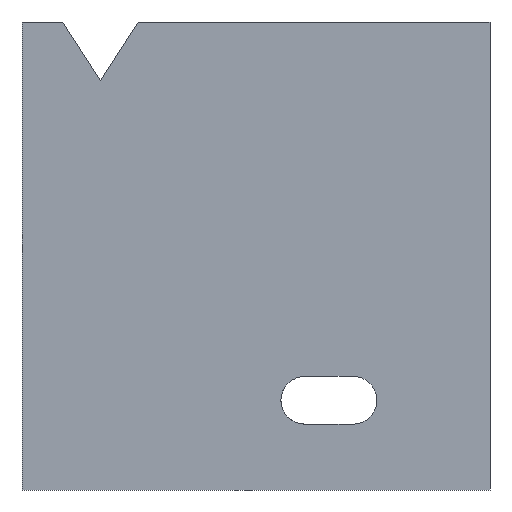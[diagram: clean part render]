
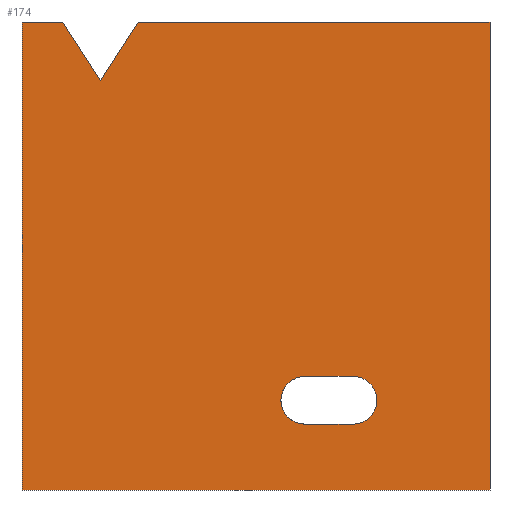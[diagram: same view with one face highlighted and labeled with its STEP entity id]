
A CAD part, left-side view. The second image highlights one B-rep face of the part: STEP entity #174.
In plain terms, the highlighted planar face has unit normal (-1, 0, 0).
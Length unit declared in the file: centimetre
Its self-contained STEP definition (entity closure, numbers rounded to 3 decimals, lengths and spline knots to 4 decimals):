
#11 = AXIS2_PLACEMENT_3D ( 'NONE', #649, #125, #482 ) ;
#17 = ORIENTED_EDGE ( 'NONE', *, *, #867, .T. ) ;
#52 = VECTOR ( 'NONE', #295, 100. ) ;
#58 = FACE_BOUND ( 'NONE', #743, .T. ) ;
#62 = EDGE_CURVE ( 'NONE', #616, #1010, #437, .T. ) ;
#79 = EDGE_CURVE ( 'NONE', #1010, #864, #511, .T. ) ;
#86 = CARTESIAN_POINT ( 'NONE',  ( 0., 1000., 1000. ) ) ;
#93 = DIRECTION ( 'NONE',  ( 0., 0., -1. ) ) ;
#94 = LINE ( 'NONE', #379, #128 ) ;
#107 = CARTESIAN_POINT ( 'NONE',  ( 0., 1000., 1000. ) ) ;
#125 = DIRECTION ( 'NONE',  ( 1., 0., 0. ) ) ;
#128 = VECTOR ( 'NONE', #727, 100. ) ;
#141 = CARTESIAN_POINT ( 'NONE',  ( 0., 752.0861, 1000. ) ) ;
#151 = EDGE_LOOP ( 'NONE', ( #591, #242, #204, #581, #17, #888, #623 ) ) ;
#174 = ADVANCED_FACE ( 'NONE', ( #58, #322 ), #762, .F. ) ;
#203 = VERTEX_POINT ( 'NONE', #698 ) ;
#204 = ORIENTED_EDGE ( 'NONE', *, *, #893, .F. ) ;
#210 = CARTESIAN_POINT ( 'NONE',  ( 0., 395.8773, 140.7912 ) ) ;
#220 = VECTOR ( 'NONE', #1125, 100. ) ;
#242 = ORIENTED_EDGE ( 'NONE', *, *, #1093, .T. ) ;
#260 = DIRECTION ( 'NONE',  ( 1., 0., 0. ) ) ;
#274 = VERTEX_POINT ( 'NONE', #906 ) ;
#287 = DIRECTION ( 'NONE',  ( 0., -1., 0. ) ) ;
#295 = DIRECTION ( 'NONE',  ( 0., -1., 0. ) ) ;
#309 = ORIENTED_EDGE ( 'NONE', *, *, #79, .T. ) ;
#311 = CARTESIAN_POINT ( 'NONE',  ( 0., 752.0861, 1000. ) ) ;
#322 = FACE_OUTER_BOUND ( 'NONE', #151, .T. ) ;
#358 = VERTEX_POINT ( 'NONE', #627 ) ;
#364 = VECTOR ( 'NONE', #828, 100. ) ;
#373 = CARTESIAN_POINT ( 'NONE',  ( 0., 1000., 1000. ) ) ;
#374 = CARTESIAN_POINT ( 'NONE',  ( 0., 292.4852, 140.7912 ) ) ;
#379 = CARTESIAN_POINT ( 'NONE',  ( 0., 832.4518, 873.958 ) ) ;
#398 = LINE ( 'NONE', #141, #871 ) ;
#418 = DIRECTION ( 'NONE',  ( 1., 0., 0. ) ) ;
#419 = AXIS2_PLACEMENT_3D ( 'NONE', #939, #418, #669 ) ;
#431 = CARTESIAN_POINT ( 'NONE',  ( 0., 292.4852, 140.7912 ) ) ;
#433 = EDGE_CURVE ( 'NONE', #358, #274, #1054, .T. ) ;
#437 = CIRCLE ( 'NONE', #419, 50.9211 ) ;
#456 = AXIS2_PLACEMENT_3D ( 'NONE', #86, #260, #1133 ) ;
#458 = VECTOR ( 'NONE', #287, 100. ) ;
#478 = VECTOR ( 'NONE', #969, 100. ) ;
#482 = DIRECTION ( 'NONE',  ( 0., 0., -1. ) ) ;
#505 = CARTESIAN_POINT ( 'NONE',  ( 0., 0., 1000. ) ) ;
#511 = LINE ( 'NONE', #431, #602 ) ;
#523 = VERTEX_POINT ( 'NONE', #672 ) ;
#535 = LINE ( 'NONE', #1141, #220 ) ;
#552 = ORIENTED_EDGE ( 'NONE', *, *, #682, .T. ) ;
#566 = VERTEX_POINT ( 'NONE', #505 ) ;
#581 = ORIENTED_EDGE ( 'NONE', *, *, #433, .T. ) ;
#591 = ORIENTED_EDGE ( 'NONE', *, *, #607, .T. ) ;
#602 = VECTOR ( 'NONE', #1029, 100. ) ;
#605 = CIRCLE ( 'NONE', #11, 50.9211 ) ;
#607 = EDGE_CURVE ( 'NONE', #965, #523, #398, .T. ) ;
#616 = VERTEX_POINT ( 'NONE', #1115 ) ;
#617 = CARTESIAN_POINT ( 'NONE',  ( 0., 0., 1000. ) ) ;
#623 = ORIENTED_EDGE ( 'NONE', *, *, #817, .F. ) ;
#627 = CARTESIAN_POINT ( 'NONE',  ( 0., 1000., 1000. ) ) ;
#642 = ORIENTED_EDGE ( 'NONE', *, *, #62, .T. ) ;
#649 = CARTESIAN_POINT ( 'NONE',  ( 0., 395.8773, 191.7123 ) ) ;
#669 = DIRECTION ( 'NONE',  ( 0., 0., -1. ) ) ;
#672 = CARTESIAN_POINT ( 'NONE',  ( 0., 832.4518, 873.958 ) ) ;
#673 = VERTEX_POINT ( 'NONE', #782 ) ;
#682 = EDGE_CURVE ( 'NONE', #673, #616, #535, .T. ) ;
#698 = CARTESIAN_POINT ( 'NONE',  ( 0., 912.8175, 1000. ) ) ;
#727 = DIRECTION ( 'NONE',  ( 0., 0.538, 0.843 ) ) ;
#733 = ORIENTED_EDGE ( 'NONE', *, *, #883, .T. ) ;
#743 = EDGE_LOOP ( 'NONE', ( #552, #642, #309, #733 ) ) ;
#747 = DIRECTION ( 'NONE',  ( 0., 0.538, -0.843 ) ) ;
#761 = VERTEX_POINT ( 'NONE', #857 ) ;
#762 = PLANE ( 'NONE',  #456 ) ;
#763 = EDGE_CURVE ( 'NONE', #566, #761, #878, .T. ) ;
#782 = CARTESIAN_POINT ( 'NONE',  ( 0., 395.8773, 242.6334 ) ) ;
#799 = LINE ( 'NONE', #807, #458 ) ;
#807 = CARTESIAN_POINT ( 'NONE',  ( 0., 1000., 0. ) ) ;
#817 = EDGE_CURVE ( 'NONE', #965, #566, #1079, .T. ) ;
#828 = DIRECTION ( 'NONE',  ( 0., -1., 0. ) ) ;
#857 = CARTESIAN_POINT ( 'NONE',  ( 0., 0., 0. ) ) ;
#864 = VERTEX_POINT ( 'NONE', #210 ) ;
#867 = EDGE_CURVE ( 'NONE', #274, #761, #799, .T. ) ;
#871 = VECTOR ( 'NONE', #747, 100. ) ;
#878 = LINE ( 'NONE', #617, #949 ) ;
#883 = EDGE_CURVE ( 'NONE', #864, #673, #605, .T. ) ;
#888 = ORIENTED_EDGE ( 'NONE', *, *, #763, .F. ) ;
#890 = LINE ( 'NONE', #373, #364 ) ;
#893 = EDGE_CURVE ( 'NONE', #358, #203, #890, .T. ) ;
#906 = CARTESIAN_POINT ( 'NONE',  ( 0., 1000., 0. ) ) ;
#939 = CARTESIAN_POINT ( 'NONE',  ( 0., 292.4852, 191.7123 ) ) ;
#949 = VECTOR ( 'NONE', #93, 100. ) ;
#965 = VERTEX_POINT ( 'NONE', #311 ) ;
#969 = DIRECTION ( 'NONE',  ( 0., 0., -1. ) ) ;
#1010 = VERTEX_POINT ( 'NONE', #374 ) ;
#1029 = DIRECTION ( 'NONE',  ( 0., 1., 0. ) ) ;
#1045 = CARTESIAN_POINT ( 'NONE',  ( 0., 1000., 1000. ) ) ;
#1054 = LINE ( 'NONE', #1045, #478 ) ;
#1079 = LINE ( 'NONE', #107, #52 ) ;
#1093 = EDGE_CURVE ( 'NONE', #523, #203, #94, .T. ) ;
#1115 = CARTESIAN_POINT ( 'NONE',  ( 0., 292.4852, 242.6334 ) ) ;
#1125 = DIRECTION ( 'NONE',  ( 0., -1., 0. ) ) ;
#1133 = DIRECTION ( 'NONE',  ( 0., 0., -1. ) ) ;
#1141 = CARTESIAN_POINT ( 'NONE',  ( 0., 395.8773, 242.6334 ) ) ;
